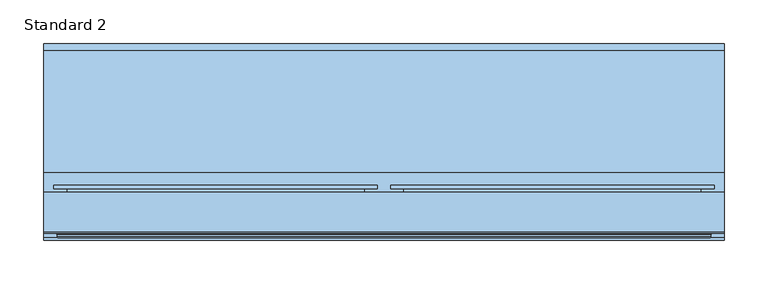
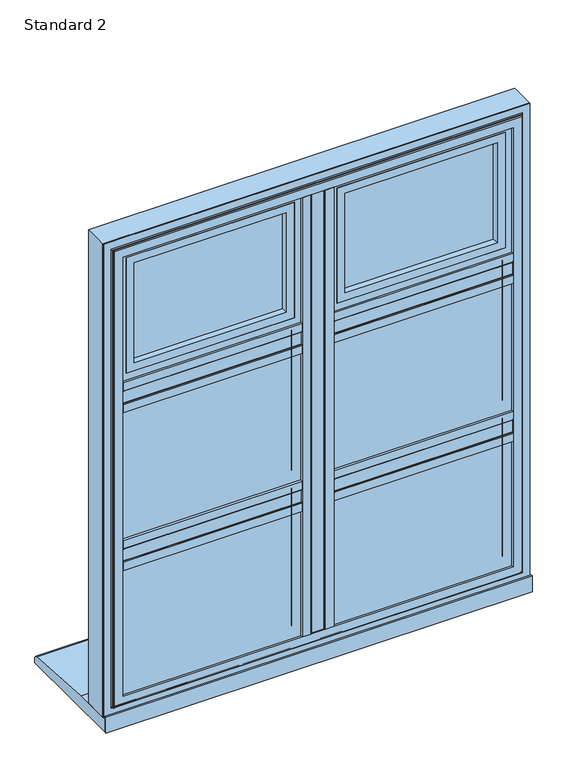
"""IFC4 building model written with IfcOpenShell, lengths in millimetres: window geometry, SMARTS_AlithermHeritage : Standard 2."""

from ifc_helpers import new_model, si_unit, point, frame, frame_2d, origin, place, context, project, spatial, polyline, circle_curve, ellipse_curve, trimmed, segment, composite_curve, outline, extrude, faceted_brep, source, transform, mapped, element, save
from ifc_brep_helpers import plane_surface, cylinder_surface, revolved_surface, advanced_brep


def standard_2_8fc163e1(model_context):
    return source(origin(), model_context, "Body", "SolidModel", [
        extrude(outline(polyline([(-13.6941456, 95.2798432), (13.6941456, 95.2798432), (13.6941456, 47.279476), (-13.6941456, 47.279476), (-13.6941456, 95.2798432)])), frame((0.0, 0.0, 652.6941456), z_axis=(0.0, 0.0, 1.0), x_axis=(1.0, 0.0, 0.0)), (0.0, 0.0, 1.0), 879.6117089),
        extrude(outline(composite_curve([segment(polyline([(-29.0, 47.279476), (29.0, 47.279476), (29.0, 43.2798432), (13.0, 43.2798432)]), True, "CONTINUOUS"), segment(trimmed(circle_curve(frame_2d((13.0, 44.2798432)), 1.0), [point((13.0, 43.2798432))], [point((12.0, 44.2798432))], False, "CARTESIAN"), True, "CONTINUOUS"), segment(polyline([(12.0, 44.2798432), (12.0, 45.7798432), (-12.0, 45.7798432), (-12.0, 44.2798432)]), True, "CONTINUOUS"), segment(trimmed(circle_curve(frame_2d((-13.0, 44.2798432)), 1.0), [point((-12.0, 44.2798432))], [point((-13.0, 43.2798432))], False, "CARTESIAN"), True, "CONTINUOUS"), segment(polyline([(-13.0, 43.2798432), (-29.0, 43.2798432), (-29.0, 47.279476)]), True, "CONTINUOUS")], self_intersect=False)), frame((0.0, 0.0, 668.0), z_axis=(0.0, 0.0, 1.0), x_axis=(1.0, 0.0, 0.0)), (0.0, 0.0, 1.0), 849.0),
        extrude(outline(polyline([(-13.6941456, 95.2798432), (-13.6941456, 47.279476), (-372.3058544, 47.279476), (-372.3058544, 95.2798432), (-13.6941456, 95.2798432)])), frame((0.0, 0.0, 926.3058544), z_axis=(0.0, 0.0, 1.0), x_axis=(1.0, 0.0, 0.0)), (0.0, 0.0, 1.0), 27.3882911),
        extrude(outline(composite_curve([segment(polyline([(47.279476, 911.0), (43.2798432, 911.0), (43.2798432, 927.0)]), True, "CONTINUOUS"), segment(trimmed(circle_curve(frame_2d((44.2798432, 927.0)), 1.0), [point((43.2798432, 927.0))], [point((44.2798432, 928.0))], False, "CARTESIAN"), True, "CONTINUOUS"), segment(polyline([(44.2798432, 928.0), (45.7798432, 928.0), (45.7798432, 952.0), (44.2798432, 952.0)]), True, "CONTINUOUS"), segment(trimmed(circle_curve(frame_2d((44.2798432, 953.0)), 1.0), [point((44.2798432, 952.0))], [point((43.2798432, 953.0))], False, "CARTESIAN"), True, "CONTINUOUS"), segment(polyline([(43.2798432, 953.0), (43.2798432, 969.0), (47.279476, 969.0), (47.279476, 911.0)]), True, "CONTINUOUS")], self_intersect=False)), frame((-357.0, 0.0, 0.0), z_axis=(1.0, 0.0, 0.0), x_axis=(0.0, 1.0, 0.0)), (0.0, 0.0, 1.0), 328.0),
        extrude(outline(polyline([(-13.6941456, 95.2798432), (-13.6941456, 47.279476), (-372.3058544, 47.279476), (-372.3058544, 95.2798432), (-13.6941456, 95.2798432)])), frame((0.0, 0.0, 1231.3058544), z_axis=(0.0, 0.0, 1.0), x_axis=(1.0, 0.0, 0.0)), (0.0, 0.0, 1.0), 27.3882911),
        extrude(outline(composite_curve([segment(polyline([(47.279476, 1216.0), (43.2798432, 1216.0), (43.2798432, 1232.0)]), True, "CONTINUOUS"), segment(trimmed(circle_curve(frame_2d((44.2798432, 1232.0)), 1.0), [point((43.2798432, 1232.0))], [point((44.2798432, 1233.0))], False, "CARTESIAN"), True, "CONTINUOUS"), segment(polyline([(44.2798432, 1233.0), (45.7798432, 1233.0), (45.7798432, 1257.0), (44.2798432, 1257.0)]), True, "CONTINUOUS"), segment(trimmed(circle_curve(frame_2d((44.2798432, 1258.0)), 1.0), [point((44.2798432, 1257.0))], [point((43.2798432, 1258.0))], False, "CARTESIAN"), True, "CONTINUOUS"), segment(polyline([(43.2798432, 1258.0), (43.2798432, 1274.0), (47.279476, 1274.0), (47.279476, 1216.0)]), True, "CONTINUOUS")], self_intersect=False)), frame((-357.0, 0.0, 0.0), z_axis=(1.0, 0.0, 0.0), x_axis=(0.0, 1.0, 0.0)), (0.0, 0.0, 1.0), 328.0),
        extrude(outline(polyline([(372.3058544, 95.2798432), (372.3058544, 47.279476), (13.6941456, 47.279476), (13.6941456, 95.2798432), (372.3058544, 95.2798432)])), frame((0.0, 0.0, 926.3058544), z_axis=(0.0, 0.0, 1.0), x_axis=(1.0, 0.0, 0.0)), (0.0, 0.0, 1.0), 27.3882911),
        extrude(outline(composite_curve([segment(polyline([(47.279476, 911.0), (43.2798432, 911.0), (43.2798432, 927.0)]), True, "CONTINUOUS"), segment(trimmed(circle_curve(frame_2d((44.2798432, 927.0)), 1.0), [point((43.2798432, 927.0))], [point((44.2798432, 928.0))], False, "CARTESIAN"), True, "CONTINUOUS"), segment(polyline([(44.2798432, 928.0), (45.7798432, 928.0), (45.7798432, 952.0), (44.2798432, 952.0)]), True, "CONTINUOUS"), segment(trimmed(circle_curve(frame_2d((44.2798432, 953.0)), 1.0), [point((44.2798432, 952.0))], [point((43.2798432, 953.0))], False, "CARTESIAN"), True, "CONTINUOUS"), segment(polyline([(43.2798432, 953.0), (43.2798432, 969.0), (47.279476, 969.0), (47.279476, 911.0)]), True, "CONTINUOUS")], self_intersect=False)), frame((29.0, 0.0, 0.0), z_axis=(1.0, 0.0, 0.0), x_axis=(0.0, 1.0, 0.0)), (0.0, 0.0, 1.0), 328.0),
        extrude(outline(polyline([(372.3058544, 95.2798432), (372.3058544, 47.279476), (13.6941456, 47.279476), (13.6941456, 95.2798432), (372.3058544, 95.2798432)])), frame((0.0, 0.0, 1231.3058544), z_axis=(0.0, 0.0, 1.0), x_axis=(1.0, 0.0, 0.0)), (0.0, 0.0, 1.0), 27.3882911),
        extrude(outline(composite_curve([segment(polyline([(47.279476, 1216.0), (43.2798432, 1216.0), (43.2798432, 1232.0)]), True, "CONTINUOUS"), segment(trimmed(circle_curve(frame_2d((44.2798432, 1232.0)), 1.0), [point((43.2798432, 1232.0))], [point((44.2798432, 1233.0))], False, "CARTESIAN"), True, "CONTINUOUS"), segment(polyline([(44.2798432, 1233.0), (45.7798432, 1233.0), (45.7798432, 1257.0), (44.2798432, 1257.0)]), True, "CONTINUOUS"), segment(trimmed(circle_curve(frame_2d((44.2798432, 1258.0)), 1.0), [point((44.2798432, 1257.0))], [point((43.2798432, 1258.0))], False, "CARTESIAN"), True, "CONTINUOUS"), segment(polyline([(43.2798432, 1258.0), (43.2798432, 1274.0), (47.279476, 1274.0), (47.279476, 1216.0)]), True, "CONTINUOUS")], self_intersect=False)), frame((29.0, 0.0, 0.0), z_axis=(1.0, 0.0, 0.0), x_axis=(0.0, 1.0, 0.0)), (0.0, 0.0, 1.0), 328.0),
        extrude(outline(polyline([(-367.0, 75.2798432), (-19.0, 75.2798432), (-19.0, 71.2798432), (-367.0, 71.2798432), (-367.0, 75.2798432)])), frame((0.0, 0.0, 658.0), z_axis=(0.0, 0.0, 1.0), x_axis=(1.0, 0.0, 0.0)), (0.0, 0.0, 1.0), 263.0),
        extrude(outline(polyline([(-367.0, 55.2798432), (-19.0, 55.2798432), (-19.0, 51.2798432), (-367.0, 51.2798432), (-367.0, 55.2798432)])), frame((0.0, 0.0, 658.0), z_axis=(0.0, 0.0, 1.0), x_axis=(1.0, 0.0, 0.0)), (0.0, 0.0, 1.0), 263.0),
        extrude(outline(polyline([(921.0, -367.0), (658.0, -367.0), (658.0, -19.0), (921.0, -19.0), (921.0, -367.0)]), holes=[polyline([(911.0, -29.0), (668.0, -29.0), (668.0, -357.0), (911.0, -357.0), (911.0, -29.0)])]), frame((0.0, 55.2798432, 0.0), z_axis=(0.0, 1.0, 0.0), x_axis=(0.0, 0.0, 1.0)), (0.0, 0.0, 1.0), 16.0),
        faceted_brep([(-19.1851151, 95.2798432, 920.8148849), (-29.0, 78.2798098, 911.0), (-357.0, 78.2798098, 911.0), (-366.8148849, 95.2798432, 920.8148849), (-13.6297324, 78.2798098, 926.3702676), (-13.6297324, 95.2798432, 926.3702676), (-372.3702676, 95.2798432, 926.3702676), (-372.3702676, 78.2798098, 926.3702676), (-372.3702676, 78.2798098, 652.6297324), (-372.3702676, 95.2798432, 652.6297324), (-13.6297324, 95.2798432, 652.6297324), (-13.6297324, 78.2798098, 652.6297324), (-366.8148849, 95.2798432, 658.1851151), (-19.1851151, 95.2798432, 658.1851151), (-29.0, 78.2798098, 668.0), (-357.0, 78.2798098, 668.0)], [[[0, 1, 2, 3]], [[4, 5, 6, 7]], [[8, 9, 10, 11]], [[5, 10, 9, 6], [3, 12, 13, 0]], [[7, 8, 11, 4], [1, 14, 15, 2]], [[3, 2, 15, 12]], [[7, 6, 9, 8]], [[12, 15, 14, 13]], [[13, 14, 1, 0]], [[11, 10, 5, 4]]]),
        extrude(outline(polyline([(-367.0, 75.2798432), (-19.0, 75.2798432), (-19.0, 71.2798432), (-367.0, 71.2798432), (-367.0, 75.2798432)])), frame((0.0, 0.0, 959.0), z_axis=(0.0, 0.0, 1.0), x_axis=(1.0, 0.0, 0.0)), (0.0, 0.0, 1.0), 267.0),
        extrude(outline(polyline([(-367.0, 55.2798432), (-19.0, 55.2798432), (-19.0, 51.2798432), (-367.0, 51.2798432), (-367.0, 55.2798432)])), frame((0.0, 0.0, 959.0), z_axis=(0.0, 0.0, 1.0), x_axis=(1.0, 0.0, 0.0)), (0.0, 0.0, 1.0), 267.0),
        extrude(outline(polyline([(1226.0, -367.0), (959.0, -367.0), (959.0, -19.0), (1226.0, -19.0), (1226.0, -367.0)]), holes=[polyline([(1216.0, -29.0), (969.0, -29.0), (969.0, -357.0), (1216.0, -357.0), (1216.0, -29.0)])]), frame((0.0, 55.2798432, 0.0), z_axis=(0.0, 1.0, 0.0), x_axis=(0.0, 0.0, 1.0)), (0.0, 0.0, 1.0), 16.0),
        faceted_brep([(-19.1851151, 95.2798432, 1225.8148849), (-29.0, 78.2798098, 1216.0), (-357.0, 78.2798098, 1216.0), (-366.8148849, 95.2798432, 1225.8148849), (-13.6297324, 78.2798098, 1231.3702676), (-13.6297324, 95.2798432, 1231.3702676), (-372.3702676, 95.2798432, 1231.3702676), (-372.3702676, 78.2798098, 1231.3702676), (-372.3702676, 78.2798098, 953.6297324), (-372.3702676, 95.2798432, 953.6297324), (-13.6297324, 95.2798432, 953.6297324), (-13.6297324, 78.2798098, 953.6297324), (-366.8148849, 95.2798432, 959.1851151), (-19.1851151, 95.2798432, 959.1851151), (-29.0, 78.2798098, 969.0), (-357.0, 78.2798098, 969.0)], [[[0, 1, 2, 3]], [[4, 5, 6, 7]], [[8, 9, 10, 11]], [[5, 10, 9, 6], [3, 12, 13, 0]], [[7, 8, 11, 4], [1, 14, 15, 2]], [[3, 2, 15, 12]], [[7, 6, 9, 8]], [[12, 15, 14, 13]], [[13, 14, 1, 0]], [[11, 10, 5, 4]]]),
        extrude(outline(polyline([(-343.5, 89.2798432), (-42.5, 89.2798432), (-42.5, 85.2798432), (-343.5, 85.2798432), (-343.5, 89.2798432)])), frame((0.0, 0.0, 1287.5), z_axis=(0.0, 0.0, 1.0), x_axis=(1.0, 0.0, 0.0)), (0.0, 0.0, 1.0), 216.0),
        extrude(outline(polyline([(-343.5, 69.2798432), (-42.5, 69.2798432), (-42.5, 65.2798432), (-343.5, 65.2798432), (-343.5, 69.2798432)])), frame((0.0, 0.0, 1287.5), z_axis=(0.0, 0.0, 1.0), x_axis=(1.0, 0.0, 0.0)), (0.0, 0.0, 1.0), 216.0),
        extrude(outline(polyline([(1503.5, -343.5), (1287.5, -343.5), (1287.5, -42.5), (1503.5, -42.5), (1503.5, -343.5)]), holes=[polyline([(1493.5, -52.5), (1297.5, -52.5), (1297.5, -333.5), (1493.5, -333.5), (1493.5, -52.5)])]), frame((0.0, 69.2798432, 0.0), z_axis=(0.0, 1.0, 0.0), x_axis=(0.0, 0.0, 1.0)), (0.0, 0.0, 1.0), 16.0),
        extrude(outline(polyline([(1507.0052956, -347.0052956), (1283.9947044, -347.0052956), (1283.9947044, -38.9947044), (1507.0052956, -38.9947044), (1507.0052956, -347.0052956)]), holes=[polyline([(1492.0, -54.0), (1299.0, -54.0), (1299.0, -332.0), (1492.0, -332.0), (1492.0, -54.0)])]), frame((0.0, 51.2798432, 0.0), z_axis=(0.0, 1.0, 0.0), x_axis=(0.0, 0.0, 1.0)), (0.0, 0.0, 1.0), 11.3),
        extrude(outline(polyline([(1268.3548042, -362.6451958), (1268.3548042, -23.3548042), (1522.6451958, -23.3548042), (1522.6451958, -362.6451958), (1268.3548042, -362.6451958)]), holes=[polyline([(1507.0, -347.0), (1507.0, -39.0), (1284.0, -39.0), (1284.0, -347.0), (1507.0, -347.0)])]), frame((0.0, 51.2798432, 0.0), z_axis=(0.0, 1.0, 0.0), x_axis=(0.0, 0.0, 1.0)), (0.0, 0.0, 1.0), 41.6),
        advanced_brep(
        [(-332.0, 98.0798432, 1492.0), (-332.0, 92.8798432, 1492.0), (-332.0, 92.8798432, 1299.0), (-332.0, 98.0798432, 1299.0), (-54.0, 92.8798432, 1299.0), (-54.0, 98.0798432, 1299.0), (-54.0, 92.8798432, 1492.0), (-54.0, 98.0798432, 1492.0), (-378.2, 99.2798432, 1538.2), (-378.2, 103.2798432, 1538.2), (-378.2, 103.2798432, 1252.8), (-378.2, 99.2798432, 1252.8), (-7.8, 103.2798432, 1252.8), (-7.8, 99.2798432, 1252.8), (-7.8, 103.2798432, 1538.2), (-7.8, 99.2798432, 1538.2), (-363.1467657, 99.2798432, 1523.1467657), (-22.8532343, 99.2798432, 1523.1467657), (-22.8532343, 99.2798432, 1267.8532343), (-363.1467657, 99.2798432, 1267.8532343), (-349.2, 103.2798432, 1281.8), (-36.8, 103.2798432, 1281.8), (-36.8, 103.2798432, 1509.2), (-349.2, 103.2798432, 1509.2), (-363.1467657, 92.8798432, 1523.1467657), (-363.1467657, 92.8798432, 1267.8532343), (-22.8532343, 92.8798432, 1267.8532343), (-22.8532343, 92.8798432, 1523.1467657), (-347.2, 101.2798432, 1507.2), (-347.2, 100.0798432, 1507.2), (-347.2, 100.0798432, 1283.8), (-347.2, 101.2798432, 1283.8), (-345.2, 98.0798432, 1505.2), (-345.2, 98.0798432, 1285.8), (-38.8, 100.0798432, 1283.8), (-38.8, 101.2798432, 1283.8), (-40.8, 98.0798432, 1285.8), (-38.8, 100.0798432, 1507.2), (-38.8, 101.2798432, 1507.2), (-40.8, 98.0798432, 1505.2)],
        [
            (0, 1),
            (1, 2),
            (2, 3),
            (3, 0),
            (2, 4),
            (4, 5),
            (5, 3),
            (4, 6),
            (6, 7),
            (7, 5),
            (6, 1),
            (0, 7),
            (8, 9),
            (9, 10),
            (10, 11),
            (11, 8),
            (10, 12),
            (12, 13),
            (13, 11),
            (12, 14),
            (14, 15),
            (15, 13),
            (15, 8),
            (16, 17),
            (17, 18),
            (18, 19),
            (19, 16),
            (14, 9),
            (20, 21),
            (21, 22),
            (22, 23),
            (23, 20),
            (24, 16),
            (19, 25),
            (25, 24),
            (18, 26),
            (26, 25),
            (17, 27),
            (27, 26),
            (27, 24),
            (28, 29),
            (29, 30),
            (30, 31),
            (31, 28),
            (29, 32, ellipse_curve(frame((-345.2, 100.0798432, 1505.2), z_axis=(0.7071067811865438, 0.0, 0.7071067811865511), x_axis=(0.707106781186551, 0.0, -0.7071067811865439)), 2.8284271, 2.0)),
            (32, 33),
            (33, 30, ellipse_curve(frame((-345.2, 100.0798432, 1285.8), z_axis=(0.7071067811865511, 0.0, -0.7071067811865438), x_axis=(-0.7071067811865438, 0.0, -0.7071067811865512)), 2.8284271, 2.0)),
            (30, 34),
            (34, 35),
            (35, 31),
            (33, 36),
            (36, 34, ellipse_curve(frame((-40.8, 100.0798432, 1285.8), z_axis=(0.7071067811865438, 0.0, 0.7071067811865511), x_axis=(0.7071067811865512, 0.0, -0.7071067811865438)), 2.8284271, 2.0)),
            (34, 37),
            (37, 38),
            (38, 35),
            (36, 39),
            (39, 37, ellipse_curve(frame((-40.8, 100.0798432, 1505.2), z_axis=(-0.7071067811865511, 0.0, 0.7071067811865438), x_axis=(0.7071067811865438, 0.0, 0.7071067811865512)), 2.8284271, 2.0)),
            (32, 39),
            (37, 29),
            (28, 38),
            (23, 28, ellipse_curve(frame((-349.2, 101.2798432, 1509.2), z_axis=(-0.7071067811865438, 0.0, -0.7071067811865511), x_axis=(-0.707106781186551, 0.0, 0.7071067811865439)), 2.8284271, 2.0)),
            (31, 20, ellipse_curve(frame((-349.2, 101.2798432, 1281.8), z_axis=(-0.7071067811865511, 0.0, 0.7071067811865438), x_axis=(0.7071067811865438, 0.0, 0.7071067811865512)), 2.8284271, 2.0)),
            (35, 21, ellipse_curve(frame((-36.8, 101.2798432, 1281.8), z_axis=(-0.7071067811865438, 0.0, -0.7071067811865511), x_axis=(-0.7071067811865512, 0.0, 0.7071067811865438)), 2.8284271, 2.0)),
            (38, 22, ellipse_curve(frame((-36.8, 101.2798432, 1509.2), z_axis=(0.7071067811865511, 0.0, -0.7071067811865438), x_axis=(-0.7071067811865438, 0.0, -0.7071067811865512)), 2.8284271, 2.0)),
        ],
        [
            plane_surface(frame((-332.0, 92.8798432, 1492.0), z_axis=(1.0, 0.0, 0.0), x_axis=(0.0, 0.0, -1.0))),
            plane_surface(frame((-332.0, 92.8798432, 1299.0), z_axis=(0.0, 0.0, 1.0), x_axis=(1.0, 0.0, 0.0))),
            plane_surface(frame((-54.0, 92.8798432, 1299.0), z_axis=(-1.0, 0.0, 0.0), x_axis=(0.0, 0.0, 1.0))),
            plane_surface(frame((-54.0, 92.8798432, 1492.0), z_axis=(0.0, 0.0, -1.0), x_axis=(-1.0, 0.0, 0.0))),
            plane_surface(frame((-378.2, 103.2798432, 1538.2), z_axis=(-1.0, 0.0, 0.0), x_axis=(0.0, 0.0, -1.0))),
            plane_surface(frame((-378.2, 103.2798432, 1252.8), z_axis=(0.0, 0.0, -1.0), x_axis=(1.0, 0.0, 0.0))),
            plane_surface(frame((-7.8, 103.2798432, 1252.8), z_axis=(1.0, 0.0, 0.0), x_axis=(0.0, 0.0, 1.0))),
            plane_surface(frame((-7.8, 99.2798432, 1538.2), z_axis=(0.0, -1.0, 0.0), x_axis=(-1.0, 0.0, 0.0))),
            plane_surface(frame((-7.8, 103.2798432, 1538.2), z_axis=(0.0, 0.0, 1.0), x_axis=(-1.0, 0.0, 0.0))),
            plane_surface(frame((-36.8, 103.2798432, 1509.2), z_axis=(0.0, 1.0, 0.0), x_axis=(-1.0, 0.0, 0.0))),
            plane_surface(frame((-363.1467657, 99.2798432, 1523.1467657), z_axis=(-1.0, 0.0, 0.0), x_axis=(0.0, 0.0, -1.0))),
            plane_surface(frame((-363.1467657, 99.2798432, 1267.8532343), z_axis=(0.0, 0.0, -1.0), x_axis=(1.0, 0.0, 0.0))),
            plane_surface(frame((-22.8532343, 99.2798432, 1267.8532343), z_axis=(1.0, 0.0, 0.0), x_axis=(0.0, 0.0, 1.0))),
            plane_surface(frame((-22.8532343, 92.8798432, 1523.1467657), z_axis=(0.0, -1.0, 0.0), x_axis=(-1.0, 0.0, 0.0))),
            plane_surface(frame((-22.8532343, 99.2798432, 1523.1467657), z_axis=(0.0, 0.0, 1.0), x_axis=(-1.0, 0.0, 0.0))),
            plane_surface(frame((-347.2, 100.0798432, 1507.2), z_axis=(1.0, 0.0, 0.0), x_axis=(0.0, 0.0, -1.0))),
            revolved_surface(polyline([(-347.2, 100.0798432, 1283.8), (-347.2, 100.0798432, 1507.2)]), (-345.2, 100.0798432, 1517.0), (0.0, 0.0, -1.0)),
            plane_surface(frame((-347.2, 100.0798432, 1283.8), z_axis=(0.0, 0.0, 1.0), x_axis=(1.0, 0.0, 0.0))),
            revolved_surface(polyline([(-38.80000000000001, 100.0798432, 1283.8), (-347.2, 100.0798432, 1283.8)]), (-357.0, 100.0798432, 1285.8), (1.0, 0.0, 0.0)),
            plane_surface(frame((-38.8, 100.0798432, 1283.8), z_axis=(-1.0, 0.0, 0.0), x_axis=(0.0, 0.0, 1.0))),
            revolved_surface(polyline([(-38.8, 100.0798432, 1507.2), (-38.8, 100.0798432, 1283.8)]), (-40.8, 100.0798432, 1274.0), (0.0, 0.0, 1.0)),
            plane_surface(frame((-54.0, 98.0798432, 1492.0), z_axis=(0.0, 1.0, 0.0), x_axis=(-1.0, 0.0, 0.0))),
            plane_surface(frame((-38.8, 100.0798432, 1507.2), z_axis=(0.0, 0.0, -1.0), x_axis=(-1.0, 0.0, 0.0))),
            revolved_surface(polyline([(-347.2, 100.0798432, 1507.2), (-38.8, 100.0798432, 1507.2)]), (-29.0, 100.0798432, 1505.2), (-1.0, 0.0, 0.0)),
            cylinder_surface(frame((-349.2, 101.2798432, 1517.0), z_axis=(0.0, 0.0, 1.0), x_axis=(-1.0, 0.0, 0.0)), 2.0),
            cylinder_surface(frame((-357.0, 101.2798432, 1281.8), z_axis=(-1.0, 0.0, 0.0), x_axis=(0.0, 0.0, -1.0)), 2.0),
            cylinder_surface(frame((-36.8, 101.2798432, 1274.0), z_axis=(0.0, 0.0, -1.0), x_axis=(1.0, 0.0, 0.0)), 2.0),
            cylinder_surface(frame((-29.0, 101.2798432, 1509.2), z_axis=(1.0, 0.0, 0.0), x_axis=(0.0, 0.0, 1.0)), 2.0),
        ],
        [
            (0, [[1, 2, 3, 4]]),
            (1, [[-3, 5, 6, 7]]),
            (2, [[-6, 8, 9, 10]]),
            (3, [[-9, 11, -1, 12]]),
            (4, [[13, 14, 15, 16]]),
            (5, [[-15, 17, 18, 19]]),
            (6, [[-18, 20, 21, 22]]),
            (7, [[-19, -22, 23, -16], [24, 25, 26, 27]]),
            (8, [[-21, 28, -13, -23]]),
            (9, [[-28, -20, -17, -14], [29, 30, 31, 32]]),
            (10, [[33, -27, 34, 35]]),
            (11, [[-34, -26, 36, 37]]),
            (12, [[-36, -25, 38, 39]]),
            (13, [[-37, -39, 40, -35], [-11, -8, -5, -2]]),
            (14, [[-38, -24, -33, -40]]),
            (15, [[41, 42, 43, 44]]),
            (16, [[45, 46, 47, -42]]),
            (17, [[-43, 48, 49, 50]]),
            (18, [[-47, 51, 52, -48]]),
            (19, [[-49, 53, 54, 55]]),
            (20, [[-52, 56, 57, -53]]),
            (21, [[58, -56, -51, -46], [-7, -10, -12, -4]]),
            (22, [[-54, 59, -41, 60]]),
            (23, [[-57, -58, -45, -59]]),
            (24, [[61, -44, 62, -32]]),
            (25, [[-62, -50, 63, -29]]),
            (26, [[-63, -55, 64, -30]]),
            (27, [[-64, -60, -61, -31]]),
        ],
    ),
        extrude(outline(polyline([(19.0, 75.2798432), (367.0, 75.2798432), (367.0, 71.2798432), (19.0, 71.2798432), (19.0, 75.2798432)])), frame((0.0, 0.0, 658.0), z_axis=(0.0, 0.0, 1.0), x_axis=(1.0, 0.0, 0.0)), (0.0, 0.0, 1.0), 263.0),
        extrude(outline(polyline([(19.0, 55.2798432), (367.0, 55.2798432), (367.0, 51.2798432), (19.0, 51.2798432), (19.0, 55.2798432)])), frame((0.0, 0.0, 658.0), z_axis=(0.0, 0.0, 1.0), x_axis=(1.0, 0.0, 0.0)), (0.0, 0.0, 1.0), 263.0),
        extrude(outline(polyline([(921.0, 19.0), (658.0, 19.0), (658.0, 367.0), (921.0, 367.0), (921.0, 19.0)]), holes=[polyline([(911.0, 357.0), (668.0, 357.0), (668.0, 29.0), (911.0, 29.0), (911.0, 357.0)])]), frame((0.0, 55.2798432, 0.0), z_axis=(0.0, 1.0, 0.0), x_axis=(0.0, 0.0, 1.0)), (0.0, 0.0, 1.0), 16.0),
        faceted_brep([(366.8148849, 95.2798432, 920.8148849), (357.0, 78.2798098, 911.0), (29.0, 78.2798098, 911.0), (19.1851151, 95.2798432, 920.8148849), (372.3702676, 78.2798098, 926.3702676), (372.3702676, 95.2798432, 926.3702676), (13.6297324, 95.2798432, 926.3702676), (13.6297324, 78.2798098, 926.3702676), (13.6297324, 78.2798098, 652.6297324), (13.6297324, 95.2798432, 652.6297324), (372.3702676, 95.2798432, 652.6297324), (372.3702676, 78.2798098, 652.6297324), (19.1851151, 95.2798432, 658.1851151), (366.8148849, 95.2798432, 658.1851151), (357.0, 78.2798098, 668.0), (29.0, 78.2798098, 668.0)], [[[0, 1, 2, 3]], [[4, 5, 6, 7]], [[8, 9, 10, 11]], [[5, 10, 9, 6], [3, 12, 13, 0]], [[7, 8, 11, 4], [1, 14, 15, 2]], [[3, 2, 15, 12]], [[7, 6, 9, 8]], [[12, 15, 14, 13]], [[13, 14, 1, 0]], [[11, 10, 5, 4]]]),
        extrude(outline(polyline([(19.0, 75.2798432), (367.0, 75.2798432), (367.0, 71.2798432), (19.0, 71.2798432), (19.0, 75.2798432)])), frame((0.0, 0.0, 959.0), z_axis=(0.0, 0.0, 1.0), x_axis=(1.0, 0.0, 0.0)), (0.0, 0.0, 1.0), 267.0),
        extrude(outline(polyline([(19.0, 55.2798432), (367.0, 55.2798432), (367.0, 51.2798432), (19.0, 51.2798432), (19.0, 55.2798432)])), frame((0.0, 0.0, 959.0), z_axis=(0.0, 0.0, 1.0), x_axis=(1.0, 0.0, 0.0)), (0.0, 0.0, 1.0), 267.0),
        extrude(outline(polyline([(1226.0, 19.0), (959.0, 19.0), (959.0, 367.0), (1226.0, 367.0), (1226.0, 19.0)]), holes=[polyline([(1216.0, 357.0), (969.0, 357.0), (969.0, 29.0), (1216.0, 29.0), (1216.0, 357.0)])]), frame((0.0, 55.2798432, 0.0), z_axis=(0.0, 1.0, 0.0), x_axis=(0.0, 0.0, 1.0)), (0.0, 0.0, 1.0), 16.0),
        faceted_brep([(366.8148849, 95.2798432, 1225.8148849), (357.0, 78.2798098, 1216.0), (29.0, 78.2798098, 1216.0), (19.1851151, 95.2798432, 1225.8148849), (372.3702676, 78.2798098, 1231.3702676), (372.3702676, 95.2798432, 1231.3702676), (13.6297324, 95.2798432, 1231.3702676), (13.6297324, 78.2798098, 1231.3702676), (13.6297324, 78.2798098, 953.6297324), (13.6297324, 95.2798432, 953.6297324), (372.3702676, 95.2798432, 953.6297324), (372.3702676, 78.2798098, 953.6297324), (19.1851151, 95.2798432, 959.1851151), (366.8148849, 95.2798432, 959.1851151), (357.0, 78.2798098, 969.0), (29.0, 78.2798098, 969.0)], [[[0, 1, 2, 3]], [[4, 5, 6, 7]], [[8, 9, 10, 11]], [[5, 10, 9, 6], [3, 12, 13, 0]], [[7, 8, 11, 4], [1, 14, 15, 2]], [[3, 2, 15, 12]], [[7, 6, 9, 8]], [[12, 15, 14, 13]], [[13, 14, 1, 0]], [[11, 10, 5, 4]]]),
        extrude(outline(polyline([(1550.0, 390.0), (1550.0, -390.0), (635.0, -390.0), (635.0, 390.0), (1550.0, 390.0)]), holes=[polyline([(652.7000182, 372.2999818), (652.7000182, -372.2999818), (1532.2999818, -372.2999818), (1532.2999818, 372.2999818), (652.7000182, 372.2999818)])]), frame((0.0, 50.279857, 0.0), z_axis=(0.0, 1.0, 0.0), x_axis=(0.0, 0.0, 1.0)), (0.0, 0.0, 1.0), 44.9999962),
        advanced_brep(
        [(357.0, 43.2798432, 1517.0), (357.0, 47.2798432, 1517.0), (357.0, 47.2798432, 668.0), (357.0, 43.2798432, 668.0), (390.0, 50.279857, 1550.0), (390.0, 48.279857, 1550.0), (390.0, 48.279857, 635.0), (390.0, 50.279857, 635.0), (372.4999818, 43.2798432, 1532.4999818), (-372.4999818, 43.2798432, 1532.4999818), (-372.4999818, 43.2798432, 652.5000182), (372.4999818, 43.2798432, 652.5000182), (-357.0, 43.2798432, 668.0), (-357.0, 43.2798432, 1517.0), (-390.0, 50.279857, 1550.0), (-390.0, 48.279857, 1550.0), (-390.0, 50.279857, 635.0), (372.2999818, 50.279857, 1532.2999818), (-372.2999818, 50.279857, 1532.2999818), (-372.2999818, 50.279857, 652.7000182), (372.2999818, 50.279857, 652.7000182), (-357.0, 47.2798432, 1517.0), (-357.0, 47.2798432, 668.0), (-390.0, 48.279857, 635.0), (-372.2999818, 47.2798432, 1532.2999818), (372.2999818, 47.2798432, 1532.2999818), (372.2999818, 47.2798432, 652.7000182), (374.4999818, 46.779857, 650.5000182), (374.4999818, 45.2798432, 650.5000182), (-374.4999818, 45.2798432, 650.5000182), (-374.4999818, 46.779857, 650.5000182), (374.4999818, 46.779857, 1534.4999818), (374.4999818, 45.2798432, 1534.4999818), (-372.2999818, 47.2798432, 652.7000182), (-374.4999818, 45.2798432, 1534.4999818), (-374.4999818, 46.779857, 1534.4999818), (375.9999818, 48.279857, 1535.9999818), (375.9999818, 48.279857, 649.0000182), (-375.9999818, 48.279857, 649.0000182), (-375.9999818, 48.279857, 1535.9999818)],
        [
            (0, 1),
            (1, 2),
            (2, 3),
            (3, 0),
            (4, 5),
            (5, 6),
            (6, 7),
            (7, 4),
            (8, 9),
            (9, 10),
            (10, 11),
            (11, 8),
            (3, 12),
            (12, 13),
            (13, 0),
            (14, 15),
            (15, 5),
            (4, 14),
            (7, 16),
            (16, 14),
            (17, 18),
            (18, 19),
            (19, 20),
            (20, 17),
            (13, 21),
            (21, 1),
            (2, 22),
            (22, 12),
            (22, 21),
            (6, 23),
            (23, 16),
            (23, 15),
            (24, 18),
            (17, 25),
            (25, 24),
            (20, 26),
            (26, 25),
            (27, 28),
            (28, 29),
            (29, 30),
            (30, 27),
            (31, 32),
            (32, 28),
            (27, 31),
            (19, 33),
            (33, 26),
            (24, 33),
            (29, 34),
            (34, 35),
            (35, 30),
            (34, 32),
            (31, 35),
            (36, 31, ellipse_curve(frame((375.9999818, 46.779857, 1535.9999818), z_axis=(-0.7071067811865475, 0.0, 0.7071067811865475), x_axis=(-0.7071067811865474, 0.0, -0.7071067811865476)), 2.1213203, 1.5)),
            (27, 37, ellipse_curve(frame((375.9999818, 46.779857, 649.0000182), z_axis=(-0.7071067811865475, 0.0, -0.7071067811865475), x_axis=(0.7071067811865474, 0.0, -0.7071067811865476)), 2.1213203, 1.5)),
            (37, 36),
            (30, 38, ellipse_curve(frame((-375.9999818, 46.779857, 649.0000182), z_axis=(-0.7071067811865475, 0.0, 0.7071067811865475), x_axis=(-0.7071067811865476, 0.0, -0.7071067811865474)), 2.1213203, 1.5)),
            (38, 37),
            (35, 39, ellipse_curve(frame((-375.9999818, 46.779857, 1535.9999818), z_axis=(0.7071067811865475, 0.0, 0.7071067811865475), x_axis=(-0.7071067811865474, 0.0, 0.7071067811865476)), 2.1213203, 1.5)),
            (39, 38),
            (36, 39),
            (32, 8, ellipse_curve(frame((372.4999818, 45.2798432, 1532.4999818), z_axis=(0.7071067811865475, 0.0, -0.7071067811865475), x_axis=(0.7071067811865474, 0.0, 0.7071067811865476)), 2.8284271, 2.0)),
            (11, 28, ellipse_curve(frame((372.4999818, 45.2798432, 652.5000182), z_axis=(0.7071067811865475, 0.0, 0.7071067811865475), x_axis=(-0.7071067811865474, 0.0, 0.7071067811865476)), 2.8284271, 2.0)),
            (10, 29, ellipse_curve(frame((-372.4999818, 45.2798432, 652.5000182), z_axis=(0.7071067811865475, 0.0, -0.7071067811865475), x_axis=(0.7071067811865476, 0.0, 0.7071067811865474)), 2.8284271, 2.0)),
            (9, 34, ellipse_curve(frame((-372.4999818, 45.2798432, 1532.4999818), z_axis=(-0.7071067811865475, 0.0, -0.7071067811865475), x_axis=(0.7071067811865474, 0.0, -0.7071067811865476)), 2.8284271, 2.0)),
        ],
        [
            plane_surface(frame((357.0, 47.2798432, 1517.0), z_axis=(-1.0, 0.0, 0.0), x_axis=(0.0, 0.0, -1.0))),
            plane_surface(frame((390.0, 48.279857, 1550.0), z_axis=(1.0, 0.0, 0.0), x_axis=(0.0, 0.0, -1.0))),
            plane_surface(frame((-357.0, 43.2798432, 1517.0), z_axis=(0.0, -1.0, 0.0), x_axis=(1.0, 0.0, 0.0))),
            plane_surface(frame((-390.0, 48.279857, 1550.0), z_axis=(0.0, 0.0, 1.0), x_axis=(1.0, 0.0, 0.0))),
            plane_surface(frame((-390.0, 50.279857, 1550.0), z_axis=(0.0, 1.0, 0.0), x_axis=(1.0, 0.0, 0.0))),
            plane_surface(frame((-357.0, 47.2798432, 1517.0), z_axis=(0.0, 0.0, -1.0), x_axis=(1.0, 0.0, 0.0))),
            plane_surface(frame((357.0, 47.2798432, 668.0), z_axis=(0.0, 0.0, 1.0), x_axis=(-1.0, 0.0, 0.0))),
            plane_surface(frame((-357.0, 47.2798432, 668.0), z_axis=(1.0, 0.0, 0.0), x_axis=(0.0, 0.0, 1.0))),
            plane_surface(frame((390.0, 48.279857, 635.0), z_axis=(0.0, 0.0, -1.0), x_axis=(-1.0, 0.0, 0.0))),
            plane_surface(frame((-390.0, 48.279857, 635.0), z_axis=(-1.0, 0.0, 0.0), x_axis=(0.0, 0.0, 1.0))),
            plane_surface(frame((-372.2999818, 50.279857, 1532.2999818), z_axis=(0.0, 0.0, -1.0), x_axis=(1.0, 0.0, 0.0))),
            plane_surface(frame((372.2999818, 50.279857, 1532.2999818), z_axis=(-1.0, 0.0, 0.0), x_axis=(0.0, 0.0, -1.0))),
            plane_surface(frame((374.4999818, 45.2798432, 650.5000182), z_axis=(0.0, 0.0, -1.0), x_axis=(-1.0, 0.0, 0.0))),
            plane_surface(frame((374.4999818, 45.2798432, 1534.4999818), z_axis=(1.0, 0.0, 0.0), x_axis=(0.0, 0.0, -1.0))),
            plane_surface(frame((372.2999818, 50.279857, 652.7000182), z_axis=(0.0, 0.0, 1.0), x_axis=(-1.0, 0.0, 0.0))),
            plane_surface(frame((-372.2999818, 50.279857, 652.7000182), z_axis=(1.0, 0.0, 0.0), x_axis=(0.0, 0.0, 1.0))),
            plane_surface(frame((-374.4999818, 45.2798432, 650.5000182), z_axis=(-1.0, 0.0, 0.0), x_axis=(0.0, 0.0, 1.0))),
            plane_surface(frame((-372.2999818, 47.2798432, 1532.2999818), z_axis=(0.0, 1.0, 0.0), x_axis=(1.0, 0.0, 0.0))),
            plane_surface(frame((-374.4999818, 45.2798432, 1534.4999818), z_axis=(0.0, 0.0, 1.0), x_axis=(1.0, 0.0, 0.0))),
            revolved_surface(polyline([(374.4999818, 46.779857, 647.5000182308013), (374.4999818, 46.779857, 1537.4999817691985)]), (375.9999818, 46.779857, 1550.0), (0.0, 0.0, -1.0)),
            revolved_surface(polyline([(-377.4999817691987, 46.779857, 650.5000182), (377.49998176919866, 46.779857, 650.5000182)]), (390.0, 46.779857, 649.0000182), (-1.0, 0.0, 0.0)),
            revolved_surface(polyline([(-374.4999818, 46.779857, 1537.4999817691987), (-374.4999818, 46.779857, 647.5000182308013)]), (-375.9999818, 46.779857, 635.0), (0.0, 0.0, 1.0)),
            revolved_surface(polyline([(377.4999817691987, 46.779857, 1534.4999818), (-377.49998176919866, 46.779857, 1534.4999818)]), (-390.0, 46.779857, 1535.9999818), (1.0, 0.0, 0.0)),
            plane_surface(frame((-375.9999818, 48.279857, 1535.9999818), z_axis=(0.0, -1.0, 0.0), x_axis=(1.0, 0.0, 0.0))),
            cylinder_surface(frame((372.4999818, 45.2798432, 1550.0), z_axis=(0.0, 0.0, 1.0), x_axis=(-1.0, 0.0, 0.0)), 2.0),
            cylinder_surface(frame((390.0, 45.2798432, 652.5000182), z_axis=(1.0, 0.0, 0.0), x_axis=(0.0, 0.0, 1.0)), 2.0),
            cylinder_surface(frame((-372.4999818, 45.2798432, 635.0), z_axis=(0.0, 0.0, -1.0), x_axis=(1.0, 0.0, 0.0)), 2.0),
            cylinder_surface(frame((-390.0, 45.2798432, 1532.4999818), z_axis=(-1.0, 0.0, 0.0), x_axis=(0.0, 0.0, -1.0)), 2.0),
        ],
        [
            (0, [[1, 2, 3, 4]]),
            (1, [[5, 6, 7, 8]]),
            (2, [[9, 10, 11, 12], [13, 14, 15, -4]]),
            (3, [[16, 17, -5, 18]]),
            (4, [[19, 20, -18, -8], [21, 22, 23, 24]]),
            (5, [[25, 26, -1, -15]]),
            (6, [[-3, 27, 28, -13]]),
            (7, [[-28, 29, -25, -14]]),
            (8, [[-7, 30, 31, -19]]),
            (9, [[-31, 32, -16, -20]]),
            (10, [[33, -21, 34, 35]]),
            (11, [[-34, -24, 36, 37]]),
            (12, [[38, 39, 40, 41]]),
            (13, [[42, 43, -38, 44]]),
            (14, [[-36, -23, 45, 46]]),
            (15, [[-45, -22, -33, 47]]),
            (16, [[-40, 48, 49, 50]]),
            (17, [[-46, -47, -35, -37], [-26, -29, -27, -2]]),
            (18, [[-49, 51, -42, 52]]),
            (19, [[53, -44, 54, 55]]),
            (20, [[-54, -41, 56, 57]]),
            (21, [[-56, -50, 58, 59]]),
            (22, [[-58, -52, -53, 60]]),
            (23, [[-17, -32, -30, -6], [-57, -59, -60, -55]]),
            (24, [[61, -12, 62, -43]]),
            (25, [[-62, -11, 63, -39]]),
            (26, [[-63, -10, 64, -48]]),
            (27, [[-64, -9, -61, -51]]),
        ],
    ),
        extrude(outline(polyline([(42.5, 89.2798432), (343.5, 89.2798432), (343.5, 85.2798432), (42.5, 85.2798432), (42.5, 89.2798432)])), frame((0.0, 0.0, 1287.5), z_axis=(0.0, 0.0, 1.0), x_axis=(1.0, 0.0, 0.0)), (0.0, 0.0, 1.0), 216.0),
        extrude(outline(polyline([(42.5, 69.2798432), (343.5, 69.2798432), (343.5, 65.2798432), (42.5, 65.2798432), (42.5, 69.2798432)])), frame((0.0, 0.0, 1287.5), z_axis=(0.0, 0.0, 1.0), x_axis=(1.0, 0.0, 0.0)), (0.0, 0.0, 1.0), 216.0),
        extrude(outline(polyline([(1503.5, 42.5), (1287.5, 42.5), (1287.5, 343.5), (1503.5, 343.5), (1503.5, 42.5)]), holes=[polyline([(1493.5, 333.5), (1297.5, 333.5), (1297.5, 52.5), (1493.5, 52.5), (1493.5, 333.5)])]), frame((0.0, 69.2798432, 0.0), z_axis=(0.0, 1.0, 0.0), x_axis=(0.0, 0.0, 1.0)), (0.0, 0.0, 1.0), 16.0),
        extrude(outline(polyline([(1507.0052956, 38.9947044), (1283.9947044, 38.9947044), (1283.9947044, 347.0052956), (1507.0052956, 347.0052956), (1507.0052956, 38.9947044)]), holes=[polyline([(1492.0, 332.0), (1299.0, 332.0), (1299.0, 54.0), (1492.0, 54.0), (1492.0, 332.0)])]), frame((0.0, 51.2798432, 0.0), z_axis=(0.0, 1.0, 0.0), x_axis=(0.0, 0.0, 1.0)), (0.0, 0.0, 1.0), 11.3),
        extrude(outline(polyline([(1268.3548042, 23.3548042), (1268.3548042, 362.6451958), (1522.6451958, 362.6451958), (1522.6451958, 23.3548042), (1268.3548042, 23.3548042)]), holes=[polyline([(1507.0, 39.0), (1507.0, 347.0), (1284.0, 347.0), (1284.0, 39.0), (1507.0, 39.0)])]), frame((0.0, 51.2798432, 0.0), z_axis=(0.0, 1.0, 0.0), x_axis=(0.0, 0.0, 1.0)), (0.0, 0.0, 1.0), 41.6),
        advanced_brep(
        [(54.0, 98.0798432, 1492.0), (54.0, 92.8798432, 1492.0), (54.0, 92.8798432, 1299.0), (54.0, 98.0798432, 1299.0), (332.0, 92.8798432, 1299.0), (332.0, 98.0798432, 1299.0), (332.0, 92.8798432, 1492.0), (332.0, 98.0798432, 1492.0), (7.8, 99.2798432, 1538.2), (7.8, 103.2798432, 1538.2), (7.8, 103.2798432, 1252.8), (7.8, 99.2798432, 1252.8), (378.2, 103.2798432, 1252.8), (378.2, 99.2798432, 1252.8), (378.2, 103.2798432, 1538.2), (378.2, 99.2798432, 1538.2), (22.8532343, 99.2798432, 1523.1467657), (363.1467657, 99.2798432, 1523.1467657), (363.1467657, 99.2798432, 1267.8532343), (22.8532343, 99.2798432, 1267.8532343), (36.8, 103.2798432, 1281.8), (349.2, 103.2798432, 1281.8), (349.2, 103.2798432, 1509.2), (36.8, 103.2798432, 1509.2), (22.8532343, 92.8798432, 1523.1467657), (22.8532343, 92.8798432, 1267.8532343), (363.1467657, 92.8798432, 1267.8532343), (363.1467657, 92.8798432, 1523.1467657), (38.8, 101.2798432, 1507.2), (38.8, 100.0798432, 1507.2), (38.8, 100.0798432, 1283.8), (38.8, 101.2798432, 1283.8), (40.8, 98.0798432, 1505.2), (40.8, 98.0798432, 1285.8), (347.2, 100.0798432, 1283.8), (347.2, 101.2798432, 1283.8), (345.2, 98.0798432, 1285.8), (347.2, 100.0798432, 1507.2), (347.2, 101.2798432, 1507.2), (345.2, 98.0798432, 1505.2)],
        [
            (0, 1),
            (1, 2),
            (2, 3),
            (3, 0),
            (2, 4),
            (4, 5),
            (5, 3),
            (4, 6),
            (6, 7),
            (7, 5),
            (6, 1),
            (0, 7),
            (8, 9),
            (9, 10),
            (10, 11),
            (11, 8),
            (10, 12),
            (12, 13),
            (13, 11),
            (12, 14),
            (14, 15),
            (15, 13),
            (15, 8),
            (16, 17),
            (17, 18),
            (18, 19),
            (19, 16),
            (14, 9),
            (20, 21),
            (21, 22),
            (22, 23),
            (23, 20),
            (24, 16),
            (19, 25),
            (25, 24),
            (18, 26),
            (26, 25),
            (17, 27),
            (27, 26),
            (27, 24),
            (28, 29),
            (29, 30),
            (30, 31),
            (31, 28),
            (29, 32, ellipse_curve(frame((40.8, 100.0798432, 1505.2), z_axis=(0.7071067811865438, 0.0, 0.7071067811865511), x_axis=(0.707106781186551, 0.0, -0.7071067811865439)), 2.8284271, 2.0)),
            (32, 33),
            (33, 30, ellipse_curve(frame((40.8, 100.0798432, 1285.8), z_axis=(0.7071067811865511, 0.0, -0.7071067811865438), x_axis=(-0.7071067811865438, 0.0, -0.7071067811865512)), 2.8284271, 2.0)),
            (30, 34),
            (34, 35),
            (35, 31),
            (33, 36),
            (36, 34, ellipse_curve(frame((345.2, 100.0798432, 1285.8), z_axis=(0.7071067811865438, 0.0, 0.7071067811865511), x_axis=(0.7071067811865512, 0.0, -0.7071067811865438)), 2.8284271, 2.0)),
            (34, 37),
            (37, 38),
            (38, 35),
            (36, 39),
            (39, 37, ellipse_curve(frame((345.2, 100.0798432, 1505.2), z_axis=(-0.7071067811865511, 0.0, 0.7071067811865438), x_axis=(0.7071067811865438, 0.0, 0.7071067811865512)), 2.8284271, 2.0)),
            (32, 39),
            (37, 29),
            (28, 38),
            (23, 28, ellipse_curve(frame((36.8, 101.2798432, 1509.2), z_axis=(-0.7071067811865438, 0.0, -0.7071067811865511), x_axis=(-0.707106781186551, 0.0, 0.7071067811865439)), 2.8284271, 2.0)),
            (31, 20, ellipse_curve(frame((36.8, 101.2798432, 1281.8), z_axis=(-0.7071067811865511, 0.0, 0.7071067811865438), x_axis=(0.7071067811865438, 0.0, 0.7071067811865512)), 2.8284271, 2.0)),
            (35, 21, ellipse_curve(frame((349.2, 101.2798432, 1281.8), z_axis=(-0.7071067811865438, 0.0, -0.7071067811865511), x_axis=(-0.7071067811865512, 0.0, 0.7071067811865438)), 2.8284271, 2.0)),
            (38, 22, ellipse_curve(frame((349.2, 101.2798432, 1509.2), z_axis=(0.7071067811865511, 0.0, -0.7071067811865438), x_axis=(-0.7071067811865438, 0.0, -0.7071067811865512)), 2.8284271, 2.0)),
        ],
        [
            plane_surface(frame((54.0, 92.8798432, 1492.0), z_axis=(1.0, 0.0, 0.0), x_axis=(0.0, 0.0, -1.0))),
            plane_surface(frame((54.0, 92.8798432, 1299.0), z_axis=(0.0, 0.0, 1.0), x_axis=(1.0, 0.0, 0.0))),
            plane_surface(frame((332.0, 92.8798432, 1299.0), z_axis=(-1.0, 0.0, 0.0), x_axis=(0.0, 0.0, 1.0))),
            plane_surface(frame((332.0, 92.8798432, 1492.0), z_axis=(0.0, 0.0, -1.0), x_axis=(-1.0, 0.0, 0.0))),
            plane_surface(frame((7.8, 103.2798432, 1538.2), z_axis=(-1.0, 0.0, 0.0), x_axis=(0.0, 0.0, -1.0))),
            plane_surface(frame((7.8, 103.2798432, 1252.8), z_axis=(0.0, 0.0, -1.0), x_axis=(1.0, 0.0, 0.0))),
            plane_surface(frame((378.2, 103.2798432, 1252.8), z_axis=(1.0, 0.0, 0.0), x_axis=(0.0, 0.0, 1.0))),
            plane_surface(frame((378.2, 99.2798432, 1538.2), z_axis=(0.0, -1.0, 0.0), x_axis=(-1.0, 0.0, 0.0))),
            plane_surface(frame((378.2, 103.2798432, 1538.2), z_axis=(0.0, 0.0, 1.0), x_axis=(-1.0, 0.0, 0.0))),
            plane_surface(frame((349.2, 103.2798432, 1509.2), z_axis=(0.0, 1.0, 0.0), x_axis=(-1.0, 0.0, 0.0))),
            plane_surface(frame((22.8532343, 99.2798432, 1523.1467657), z_axis=(-1.0, 0.0, 0.0), x_axis=(0.0, 0.0, -1.0))),
            plane_surface(frame((22.8532343, 99.2798432, 1267.8532343), z_axis=(0.0, 0.0, -1.0), x_axis=(1.0, 0.0, 0.0))),
            plane_surface(frame((363.1467657, 99.2798432, 1267.8532343), z_axis=(1.0, 0.0, 0.0), x_axis=(0.0, 0.0, 1.0))),
            plane_surface(frame((363.1467657, 92.8798432, 1523.1467657), z_axis=(0.0, -1.0, 0.0), x_axis=(-1.0, 0.0, 0.0))),
            plane_surface(frame((363.1467657, 99.2798432, 1523.1467657), z_axis=(0.0, 0.0, 1.0), x_axis=(-1.0, 0.0, 0.0))),
            plane_surface(frame((38.8, 100.0798432, 1507.2), z_axis=(1.0, 0.0, 0.0), x_axis=(0.0, 0.0, -1.0))),
            revolved_surface(polyline([(38.8, 100.0798432, 1283.8), (38.8, 100.0798432, 1507.2)]), (40.8, 100.0798432, 1517.0), (0.0, 0.0, -1.0)),
            plane_surface(frame((38.8, 100.0798432, 1283.8), z_axis=(0.0, 0.0, 1.0), x_axis=(1.0, 0.0, 0.0))),
            revolved_surface(polyline([(347.2, 100.0798432, 1283.8), (38.8, 100.0798432, 1283.8)]), (29.0, 100.0798432, 1285.8), (1.0, 0.0, 0.0)),
            plane_surface(frame((347.2, 100.0798432, 1283.8), z_axis=(-1.0, 0.0, 0.0), x_axis=(0.0, 0.0, 1.0))),
            revolved_surface(polyline([(347.2, 100.0798432, 1507.2), (347.2, 100.0798432, 1283.8)]), (345.2, 100.0798432, 1274.0), (0.0, 0.0, 1.0)),
            plane_surface(frame((332.0, 98.0798432, 1492.0), z_axis=(0.0, 1.0, 0.0), x_axis=(-1.0, 0.0, 0.0))),
            plane_surface(frame((347.2, 100.0798432, 1507.2), z_axis=(0.0, 0.0, -1.0), x_axis=(-1.0, 0.0, 0.0))),
            revolved_surface(polyline([(38.80000000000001, 100.0798432, 1507.2), (347.2, 100.0798432, 1507.2)]), (357.0, 100.0798432, 1505.2), (-1.0, 0.0, 0.0)),
            cylinder_surface(frame((36.8, 101.2798432, 1517.0), z_axis=(0.0, 0.0, 1.0), x_axis=(-1.0, 0.0, 0.0)), 2.0),
            cylinder_surface(frame((29.0, 101.2798432, 1281.8), z_axis=(-1.0, 0.0, 0.0), x_axis=(0.0, 0.0, -1.0)), 2.0),
            cylinder_surface(frame((349.2, 101.2798432, 1274.0), z_axis=(0.0, 0.0, -1.0), x_axis=(1.0, 0.0, 0.0)), 2.0),
            cylinder_surface(frame((357.0, 101.2798432, 1509.2), z_axis=(1.0, 0.0, 0.0), x_axis=(0.0, 0.0, 1.0)), 2.0),
        ],
        [
            (0, [[1, 2, 3, 4]]),
            (1, [[-3, 5, 6, 7]]),
            (2, [[-6, 8, 9, 10]]),
            (3, [[-9, 11, -1, 12]]),
            (4, [[13, 14, 15, 16]]),
            (5, [[-15, 17, 18, 19]]),
            (6, [[-18, 20, 21, 22]]),
            (7, [[-19, -22, 23, -16], [24, 25, 26, 27]]),
            (8, [[-21, 28, -13, -23]]),
            (9, [[-28, -20, -17, -14], [29, 30, 31, 32]]),
            (10, [[33, -27, 34, 35]]),
            (11, [[-34, -26, 36, 37]]),
            (12, [[-36, -25, 38, 39]]),
            (13, [[-37, -39, 40, -35], [-11, -8, -5, -2]]),
            (14, [[-38, -24, -33, -40]]),
            (15, [[41, 42, 43, 44]]),
            (16, [[45, 46, 47, -42]]),
            (17, [[-43, 48, 49, 50]]),
            (18, [[-47, 51, 52, -48]]),
            (19, [[-49, 53, 54, 55]]),
            (20, [[-52, 56, 57, -53]]),
            (21, [[58, -56, -51, -46], [-7, -10, -12, -4]]),
            (22, [[-54, 59, -41, 60]]),
            (23, [[-57, -58, -45, -59]]),
            (24, [[61, -44, 62, -32]]),
            (25, [[-62, -50, 63, -29]]),
            (26, [[-63, -55, 64, -30]]),
            (27, [[-64, -60, -61, -31]]),
        ],
    ),
        extrude(outline(polyline([(390.0, 43.2798432), (390.0, 40.7798432), (-390.0, 40.7798432), (-390.0, 43.2798432), (390.0, 43.2798432)])), frame((0.0, 0.0, 610.0), z_axis=(0.0, 0.0, 1.0), x_axis=(1.0, 0.0, 0.0)), (0.0, 0.0, 1.0), 31.0),
        extrude(outline(composite_curve([segment(polyline([(265.7798432, 610.0), (43.2798432, 610.0), (43.2798432, 635.0), (118.7798432, 635.0), (258.4770891, 625.9276664)]), True, "CONTINUOUS"), segment(trimmed(circle_curve(frame_2d((257.7798432, 617.9581088)), 8.0), [point((258.4770891, 625.9276664))], [point((265.7798432, 617.9581088))], False, "CARTESIAN"), True, "CONTINUOUS"), segment(polyline([(265.7798432, 617.9581088), (265.7798432, 610.0)]), True, "CONTINUOUS")], self_intersect=False)), frame((-390.0, 0.0, 0.0), z_axis=(1.0, 0.0, 0.0), x_axis=(0.0, 1.0, 0.0)), (0.0, 0.0, 1.0), 780.0),
    ])


if __name__ == "__main__":
    model = new_model("IFC4")
    model_context = context("Model", 3, world=origin())
    ifc_project = project(units=[si_unit("LENGTHUNIT", "METRE", prefix="MILLI")], contexts=[model_context])
    site = spatial("IfcSite", under=ifc_project)
    building = spatial("IfcBuilding", under=site)
    placement = place(None, origin())
    standard_2_shape = standard_2_8fc163e1(model_context)
    element("IfcWindow", 1, ObjectType="SMARTS_AlithermHeritage : Standard 2", at=placement, inside=building, context=model_context, shape_type="MappedRepresentation", body=[
        mapped(standard_2_shape, transform((0.0, 0.0, 0.0), x_axis=(1.0, 0.0, 0.0), y_axis=(0.0, 1.0, 0.0), z_axis=(0.0, 0.0, 1.0))),
    ])
    save(model, "model.ifc")
